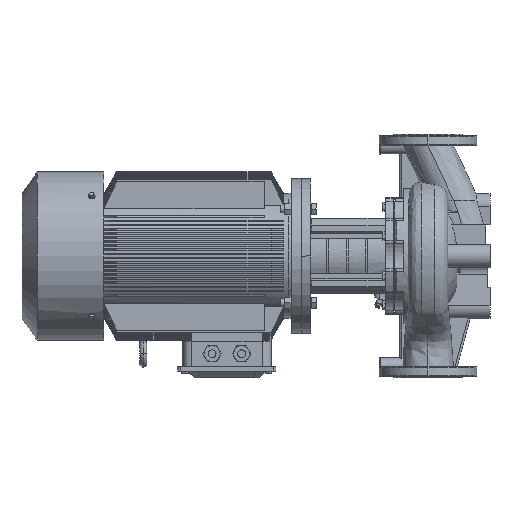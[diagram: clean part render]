
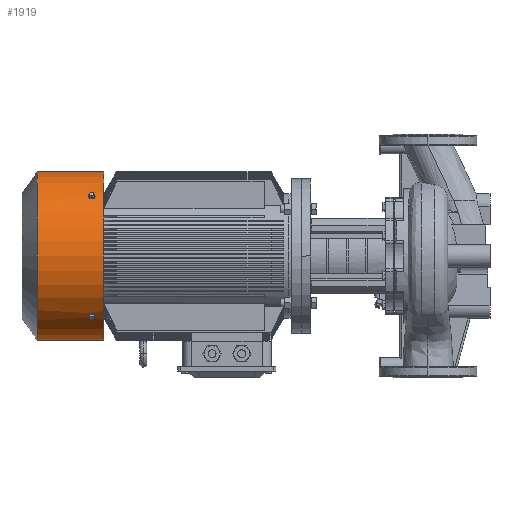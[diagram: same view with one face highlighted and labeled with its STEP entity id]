
A CAD part, left-side view. The second image highlights one B-rep face of the part: STEP entity #1919.
In plain terms, the highlighted cylindrical face has radius 190 mm (diameter 380 mm), a partial arc.
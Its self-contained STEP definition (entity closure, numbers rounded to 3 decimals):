
#248=FACE_BOUND('',#5426,.T.);
#249=FACE_BOUND('',#5427,.T.);
#250=FACE_BOUND('',#5428,.T.);
#758=CYLINDRICAL_SURFACE('',#26173,190.);
#1919=ADVANCED_FACE('',(#248,#249,#250),#758,.T.);
#5426=EDGE_LOOP('',(#12134,#12135));
#5427=EDGE_LOOP('',(#12136,#12137));
#5428=EDGE_LOOP('',(#12138,#12139,#12140,#12141));
#7187=CIRCLE('',#26170,190.);
#7188=CIRCLE('',#26172,190.);
#8206=B_SPLINE_CURVE_WITH_KNOTS('',3,(#45409,#45410,#45411,#45412,#45413,
#45414,#45415,#45416,#45417,#45418),.UNSPECIFIED.,.F.,.F.,(4,2,2,2,4),(0.,
0.25,0.5,0.75,1.),.UNSPECIFIED.);
#8209=B_SPLINE_CURVE_WITH_KNOTS('',3,(#45463,#45464,#45465,#45466,#45467,
#45468,#45469,#45470,#45471,#45472),.UNSPECIFIED.,.F.,.F.,(4,2,2,2,4),(0.,
0.25,0.5,0.75,1.),.UNSPECIFIED.);
#8210=B_SPLINE_CURVE_WITH_KNOTS('',3,(#45485,#45486,#45487,#45488,#45489,
#45490,#45491,#45492,#45493,#45494),.UNSPECIFIED.,.F.,.F.,(4,2,2,2,4),(0.,
0.25,0.5,0.75,1.),.UNSPECIFIED.);
#8211=B_SPLINE_CURVE_WITH_KNOTS('',3,(#45495,#45496,#45497,#45498,#45499,
#45500,#45501,#45502,#45503,#45504),.UNSPECIFIED.,.F.,.F.,(4,2,2,2,4),(0.,
0.25,0.5,0.75,1.),.UNSPECIFIED.);
#12134=ORIENTED_EDGE('',*,*,#20471,.T.);
#12135=ORIENTED_EDGE('',*,*,#20477,.T.);
#12136=ORIENTED_EDGE('',*,*,#20459,.T.);
#12137=ORIENTED_EDGE('',*,*,#20478,.T.);
#12138=ORIENTED_EDGE('',*,*,#20475,.T.);
#12139=ORIENTED_EDGE('',*,*,#20479,.F.);
#12140=ORIENTED_EDGE('',*,*,#20480,.F.);
#12141=ORIENTED_EDGE('',*,*,#20481,.T.);
#17559=VERTEX_POINT('',#45408);
#17560=VERTEX_POINT('',#45419);
#17571=VERTEX_POINT('',#45462);
#17572=VERTEX_POINT('',#45473);
#17575=VERTEX_POINT('',#45480);
#17576=VERTEX_POINT('',#45482);
#17577=VERTEX_POINT('',#45506);
#17578=VERTEX_POINT('',#45508);
#20459=EDGE_CURVE('',#17560,#17559,#8206,.T.);
#20471=EDGE_CURVE('',#17572,#17571,#8209,.T.);
#20475=EDGE_CURVE('',#17576,#17575,#7187,.T.);
#20477=EDGE_CURVE('',#17571,#17572,#8210,.T.);
#20478=EDGE_CURVE('',#17559,#17560,#8211,.T.);
#20479=EDGE_CURVE('',#17577,#17575,#23089,.T.);
#20480=EDGE_CURVE('',#17578,#17577,#7188,.T.);
#20481=EDGE_CURVE('',#17578,#17576,#23090,.T.);
#23089=LINE('',#45505,#24427);
#23090=LINE('',#45509,#24428);
#24427=VECTOR('',#31035,1.);
#24428=VECTOR('',#31038,1.);
#26170=AXIS2_PLACEMENT_3D('',#45481,#31030,#31031);
#26172=AXIS2_PLACEMENT_3D('',#45507,#31036,#31037);
#26173=AXIS2_PLACEMENT_3D('',#45510,#31039,#31040);
#31030=DIRECTION('',(0.,-1.,0.));
#31031=DIRECTION('',(0.,0.,1.));
#31035=DIRECTION('',(0.,1.,0.));
#31036=DIRECTION('',(0.,-1.,0.));
#31037=DIRECTION('',(0.,0.,1.));
#31038=DIRECTION('',(0.,1.,0.));
#31039=DIRECTION('',(0.,-1.,0.));
#31040=DIRECTION('',(0.,0.,-1.));
#45408=CARTESIAN_POINT('',(-139.617,759.25,128.869));
#45409=CARTESIAN_POINT('',(-128.869,759.25,139.617));
#45410=CARTESIAN_POINT('',(-128.869,757.242,139.617));
#45411=CARTESIAN_POINT('',(-129.477,755.278,139.06));
#45412=CARTESIAN_POINT('',(-131.516,752.474,137.133));
#45413=CARTESIAN_POINT('',(-132.945,751.651,135.756));
#45414=CARTESIAN_POINT('',(-135.749,751.649,132.952));
#45415=CARTESIAN_POINT('',(-137.118,752.455,131.532));
#45416=CARTESIAN_POINT('',(-139.069,755.29,129.467));
#45417=CARTESIAN_POINT('',(-139.617,757.242,128.869));
#45418=CARTESIAN_POINT('',(-139.617,759.25,128.869));
#45419=CARTESIAN_POINT('',(-128.869,759.25,139.617));
#45462=CARTESIAN_POINT('',(-128.869,759.25,-139.617));
#45463=CARTESIAN_POINT('',(-139.617,759.25,-128.869));
#45464=CARTESIAN_POINT('',(-139.617,757.242,-128.869));
#45465=CARTESIAN_POINT('',(-139.06,755.278,-129.477));
#45466=CARTESIAN_POINT('',(-137.133,752.474,-131.516));
#45467=CARTESIAN_POINT('',(-135.756,751.651,-132.945));
#45468=CARTESIAN_POINT('',(-132.952,751.649,-135.749));
#45469=CARTESIAN_POINT('',(-131.532,752.455,-137.118));
#45470=CARTESIAN_POINT('',(-129.467,755.29,-139.069));
#45471=CARTESIAN_POINT('',(-128.869,757.242,-139.617));
#45472=CARTESIAN_POINT('',(-128.869,759.25,-139.617));
#45473=CARTESIAN_POINT('',(-139.617,759.25,-128.869));
#45480=CARTESIAN_POINT('',(0.,881.91,-190.));
#45481=CARTESIAN_POINT('',(0.,881.91,0.));
#45482=CARTESIAN_POINT('',(0.,881.91,190.));
#45485=CARTESIAN_POINT('',(-128.869,759.25,-139.617));
#45486=CARTESIAN_POINT('',(-128.869,761.258,-139.617));
#45487=CARTESIAN_POINT('',(-129.477,763.222,-139.06));
#45488=CARTESIAN_POINT('',(-131.516,766.026,-137.133));
#45489=CARTESIAN_POINT('',(-132.945,766.849,-135.756));
#45490=CARTESIAN_POINT('',(-135.749,766.851,-132.952));
#45491=CARTESIAN_POINT('',(-137.118,766.045,-131.532));
#45492=CARTESIAN_POINT('',(-139.069,763.21,-129.467));
#45493=CARTESIAN_POINT('',(-139.617,761.258,-128.869));
#45494=CARTESIAN_POINT('',(-139.617,759.25,-128.869));
#45495=CARTESIAN_POINT('',(-139.617,759.25,128.869));
#45496=CARTESIAN_POINT('',(-139.617,761.258,128.869));
#45497=CARTESIAN_POINT('',(-139.06,763.222,129.477));
#45498=CARTESIAN_POINT('',(-137.133,766.026,131.516));
#45499=CARTESIAN_POINT('',(-135.756,766.849,132.945));
#45500=CARTESIAN_POINT('',(-132.952,766.851,135.749));
#45501=CARTESIAN_POINT('',(-131.532,766.045,137.118));
#45502=CARTESIAN_POINT('',(-129.467,763.21,139.069));
#45503=CARTESIAN_POINT('',(-128.869,761.258,139.617));
#45504=CARTESIAN_POINT('',(-128.869,759.25,139.617));
#45505=CARTESIAN_POINT('',(0.,176.5,-190.));
#45506=CARTESIAN_POINT('',(0.,731.5,-190.));
#45507=CARTESIAN_POINT('',(0.,731.5,0.));
#45508=CARTESIAN_POINT('',(0.,731.5,190.));
#45509=CARTESIAN_POINT('',(0.,176.5,190.));
#45510=CARTESIAN_POINT('',(0.,176.5,0.));
